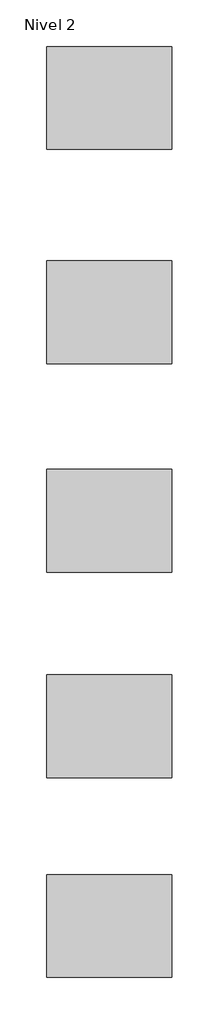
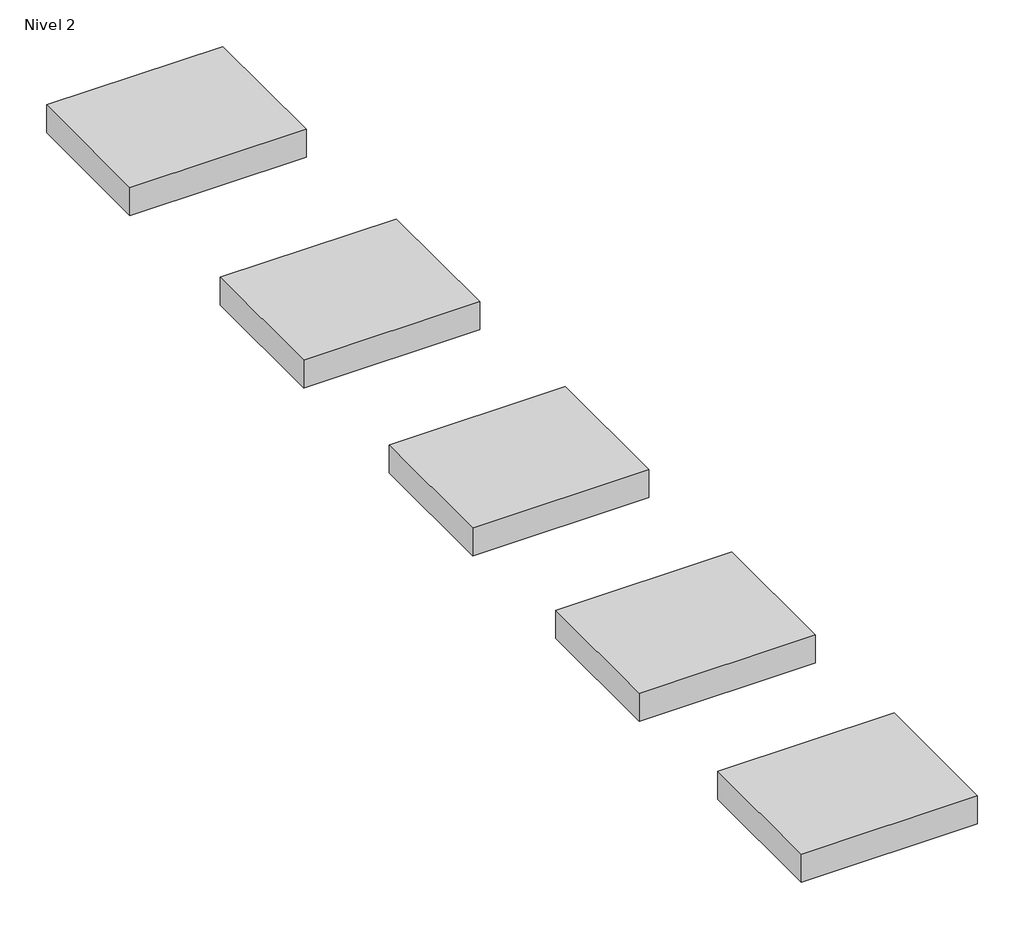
# One storey: 5 furniture elements.
"""IFC4 building model written with IfcOpenShell, lengths in millimetres."""

from ifc_helpers import new_model, si_unit, origin, place, context, project, spatial, transform, mapped, element, save
from components import furniture_fc90d0a3

model = new_model("IFC4")

# Units and contexts
model_context = context("Model", 3, world=origin())
ifc_project = project(units=[si_unit("LENGTHUNIT", "METRE", prefix="MILLI")], contexts=[model_context])

# Site, building, storey
site = spatial("IfcSite", under=ifc_project)
building = spatial("IfcBuilding", under=site)
storey = spatial("IfcBuildingStorey", under=building, Name="Nivel 2", Elevation=4000.0)

# Furniture
placement = place(None, origin())
furniture_shape = furniture_fc90d0a3(model_context)
element("IfcFurniture", 1, ObjectType="Angora : Angora 1", at=placement, inside=storey, context=model_context, shape_type="MappedRepresentation", body=[
    mapped(furniture_shape, transform((-9674.6867993, 5160.919512, 4000.0), x_axis=(1.0, 0.0, 0.0), y_axis=(0.0, 1.0, 0.0), z_axis=(0.0, 0.0, 1.0))),
])
element("IfcFurniture", 2, ObjectType="Angora : Angora 2", at=placement, inside=storey, context=model_context, shape_type="MappedRepresentation", body=[
    mapped(furniture_shape, transform((-9674.6867993, 2628.1002461, 4000.0), x_axis=(1.0, 0.0, 0.0), y_axis=(0.0, 1.0, 0.0), z_axis=(0.0, 0.0, 1.0))),
])
element("IfcFurniture", 3, ObjectType="Angora : Angora 3", at=placement, inside=storey, context=model_context, shape_type="MappedRepresentation", body=[
    mapped(furniture_shape, transform((-9674.6867993, 162.8228274, 4000.0), x_axis=(1.0, 0.0, 0.0), y_axis=(0.0, 1.0, 0.0), z_axis=(0.0, 0.0, 1.0))),
])
element("IfcFurniture", 4, ObjectType="Angora : Angora 4", at=placement, inside=storey, context=model_context, shape_type="MappedRepresentation", body=[
    mapped(furniture_shape, transform((-9674.6867993, -2268.6836678, 4000.0), x_axis=(1.0, 0.0, 0.0), y_axis=(0.0, 1.0, 0.0), z_axis=(0.0, 0.0, 1.0))),
])
element("IfcFurniture", 5, ObjectType="Angora : Angora 5", at=placement, inside=storey, context=model_context, shape_type="MappedRepresentation", body=[
    mapped(furniture_shape, transform((-9674.6867993, -4632.6483159, 4000.0), x_axis=(1.0, 0.0, 0.0), y_axis=(0.0, 1.0, 0.0), z_axis=(0.0, 0.0, 1.0))),
])

save(model, "model.ifc")
